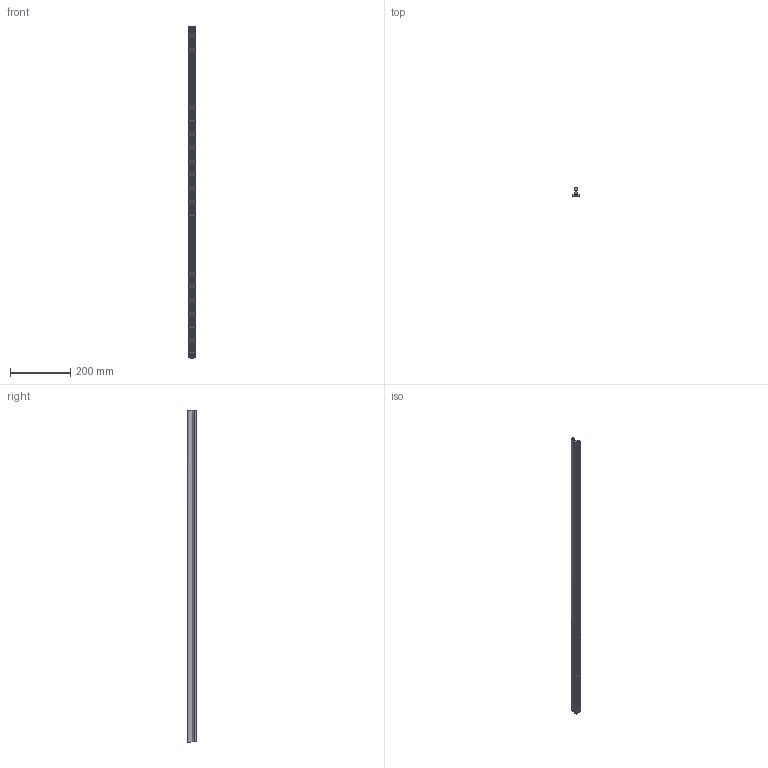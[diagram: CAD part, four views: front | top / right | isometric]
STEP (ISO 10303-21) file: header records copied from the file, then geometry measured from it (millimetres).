
FILE_DESCRIPTION (( 'STEP AP203' ), '1' );
FILE_NAME ('LFS-12-11_-_LFS-12-11 L=1098 - ArtNr 220002 1098.step', '2015-05-04T10:55:29', ( '' ), ( '' ), 'SwSTEP 2.0', 'SolidWorks 2014', '' );
FILE_SCHEMA (( 'CONFIG_CONTROL_DESIGN' ));
Length unit declared in the file: millimetre
Products named in the file (1): LFS-12-11_-_LFS-12-11 L=1098 - ArtNr 220002 1098
Bounding box: 20 x 31 x 1100 mm (x, y, z)
Volume: 332295.3 mm3; surface area: 148844 mm2
Topology: 1 solids, 1 shells, 772 faces, 2072 edges, 1322 vertices
Faces by surface type: cylinder 367, plane 361, cone 22, torus 22
Full cylindrical faces by diameter (mm): 7 x22, 8 x22, 12 x1
Entity records: 24792 total; most frequent: CARTESIAN_POINT 7332, ORIENTED_EDGE 3876, DIRECTION 3165, EDGE_CURVE 1938, VERTEX_POINT 1277, AXIS2_PLACEMENT_3D 1070, LINE 1025, VECTOR 1025
